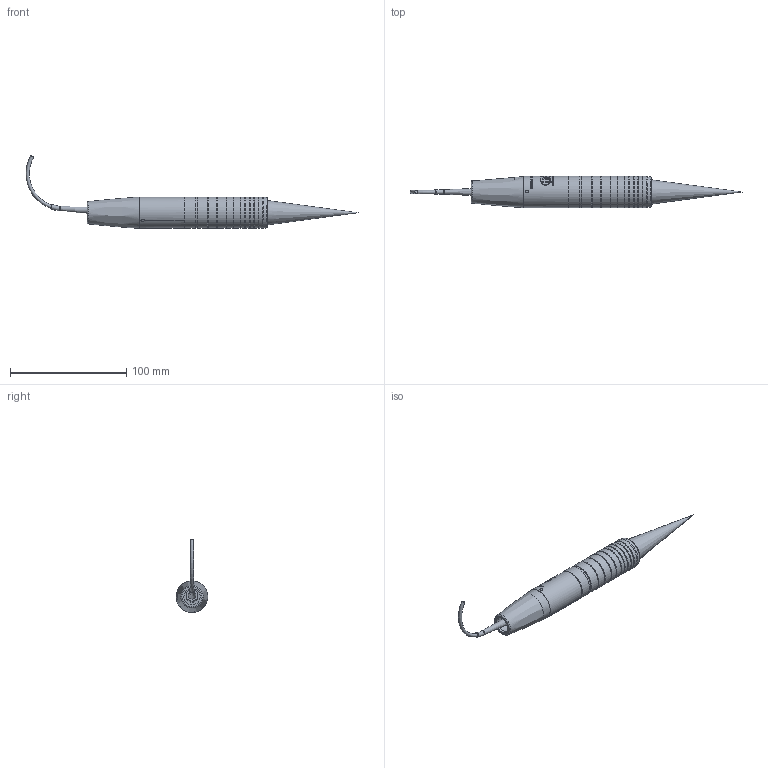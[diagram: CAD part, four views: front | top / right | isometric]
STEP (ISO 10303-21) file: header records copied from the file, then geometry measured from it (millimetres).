
FILE_DESCRIPTION (( 'STEP AP214' ), '1' );
FILE_NAME ('IFS2406-3 Step modell.STEP', '2016-10-19T07:15:05', ( '' ), ( '' ), 'SwSTEP 2.0', 'SolidWorks 2016', '' );
FILE_SCHEMA (( 'AUTOMOTIVE_DESIGN' ));
Length unit declared in the file: millimetre
Products named in the file (1): IFS2406-3  Step modell
Bounding box: 285.55 x 27 x 62.66 mm (x, y, z)
Volume: 17408.3 mm3; surface area: 32546.3 mm2
Topology: 3 solids, 3 shells, 123 faces, 618 edges, 557 vertices
Faces by surface type: cylinder 83, bspline 17, plane 13, cone 7, torus 2, sphere 1
Full cylindrical faces by diameter (mm): 0.05 x1, 2.5 x1, 6 x1, 6.4 x1, 10 x1, 14 x1, 21 x1, 25 x1, 26.99 x11, 27 x1
Entity records: 11878 total; most frequent: CARTESIAN_POINT 6143, ORIENTED_EDGE 1122, DIRECTION 580, EDGE_CURVE 561, VERTEX_POINT 546, B_SPLINE_CURVE_WITH_KNOTS 329, AXIS2_PLACEMENT_3D 243, EDGE_LOOP 225
